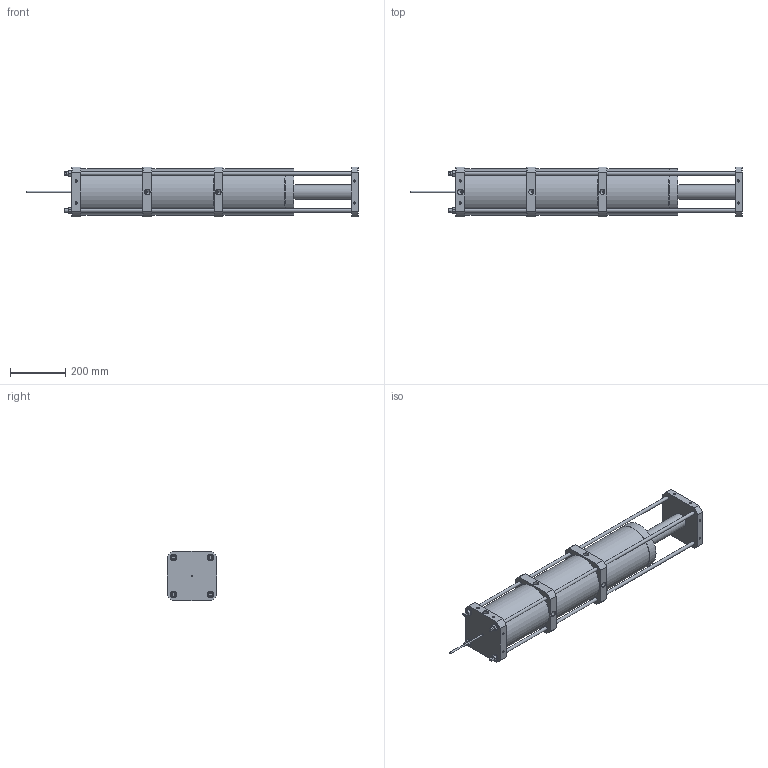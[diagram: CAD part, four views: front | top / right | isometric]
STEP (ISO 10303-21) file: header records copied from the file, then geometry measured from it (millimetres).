
FILE_DESCRIPTION(/* description */ (''),/* implementation_level */ '2;1');
FILE_NAME(/* name */ 'P13-4000.stp',/* time_stamp */ '2026-08-09T17:37:14+02:00',/* author */ ('janos'),/* organization */ (''),/* preprocessor_version */ 'ST-DEVELOPER v19.2',/* originating_system */ 'Autodesk Inventor 2024',/* authorisation */ '');
FILE_SCHEMA (('AUTOMOTIVE_DESIGN { 1 0 10303 214 3 1 1 }'));
Length unit declared in the file: millimetre
Products named in the file (1): 5.BG.160x3.160.1 Pneumatik Komponente_Vereinfachen_1
Bounding box: 1206 x 180 x 180 mm (x, y, z)
Volume: 20372156.7 mm3; surface area: 840615.5 mm2
Topology: 1 solids, 1 shells, 278 faces, 697 edges, 445 vertices
Faces by surface type: cone 113, plane 92, cylinder 72, torus 1
Full cylindrical faces by diameter (mm): 6 x1, 6.647 x16, 12 x8, 13 x13, 14.376 x1, 18.631 x5, 24 x4, 45 x1, 54 x1, 168 x3, 170 x1
Entity records: 8794 total; most frequent: CARTESIAN_POINT 1944, DIRECTION 1385, ORIENTED_EDGE 1362, EDGE_CURVE 681, AXIS2_PLACEMENT_3D 564, VERTEX_POINT 445, EDGE_LOOP 346, CIRCLE 285
